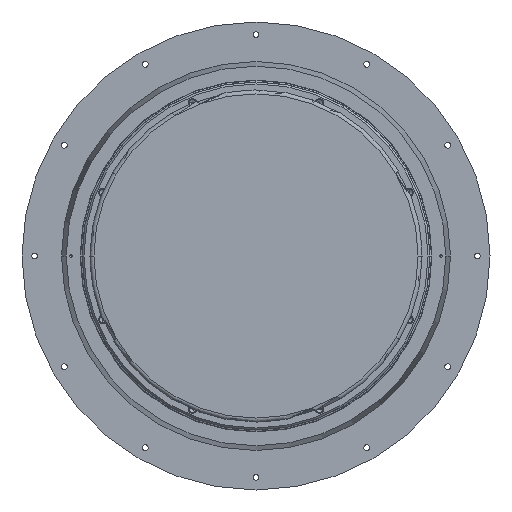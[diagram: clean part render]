
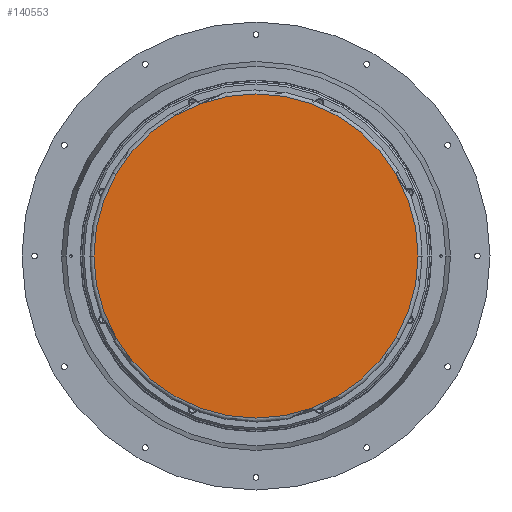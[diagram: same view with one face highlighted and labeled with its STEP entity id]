
A CAD part, front view. The second image highlights one B-rep face of the part: STEP entity #140553.
In plain terms, the highlighted planar face has unit normal (0, -1, 0).
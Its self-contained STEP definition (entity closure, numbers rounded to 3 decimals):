
#681 = DIRECTION ( 'NONE',  ( 0., -1., 0. ) ) ;
#10216 = DIRECTION ( 'NONE',  ( 0., 0., -1. ) ) ;
#14721 = CARTESIAN_POINT ( 'NONE',  ( 0., -1587., 0. ) ) ;
#18086 = AXIS2_PLACEMENT_3D ( 'NONE', #163566, #87117, #10216 ) ;
#18117 = EDGE_CURVE ( 'NONE', #93982, #32263, #39839, .T. ) ;
#27041 = EDGE_LOOP ( 'NONE', ( #35737, #33404 ) ) ;
#27646 = DIRECTION ( 'NONE',  ( 0., 0., -1. ) ) ;
#32263 = VERTEX_POINT ( 'NONE', #119020 ) ;
#33404 = ORIENTED_EDGE ( 'NONE', *, *, #18117, .T. ) ;
#35737 = ORIENTED_EDGE ( 'NONE', *, *, #74231, .T. ) ;
#39839 = CIRCLE ( 'NONE', #81186, 512.5 ) ;
#59243 = CARTESIAN_POINT ( 'NONE',  ( 512.5, -1587., 0. ) ) ;
#74231 = EDGE_CURVE ( 'NONE', #32263, #93982, #110506, .T. ) ;
#77593 = CARTESIAN_POINT ( 'NONE',  ( 0., -1587., 0. ) ) ;
#81186 = AXIS2_PLACEMENT_3D ( 'NONE', #14721, #104492, #27646 ) ;
#87117 = DIRECTION ( 'NONE',  ( 0., -1., 0. ) ) ;
#88824 = PLANE ( 'NONE',  #163010 ) ;
#90461 = DIRECTION ( 'NONE',  ( 0., 0., -1. ) ) ;
#93982 = VERTEX_POINT ( 'NONE', #59243 ) ;
#100361 = FACE_OUTER_BOUND ( 'NONE', #27041, .T. ) ;
#104492 = DIRECTION ( 'NONE',  ( 0., -1., 0. ) ) ;
#110506 = CIRCLE ( 'NONE', #18086, 512.5 ) ;
#119020 = CARTESIAN_POINT ( 'NONE',  ( -512.5, -1587., 0. ) ) ;
#140553 = ADVANCED_FACE ( 'NONE', ( #100361 ), #88824, .T. ) ;
#163010 = AXIS2_PLACEMENT_3D ( 'NONE', #77593, #681, #90461 ) ;
#163566 = CARTESIAN_POINT ( 'NONE',  ( 0., -1587., 0. ) ) ;
